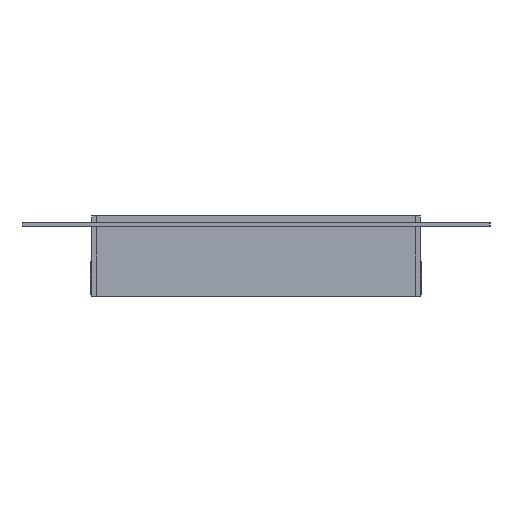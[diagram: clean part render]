
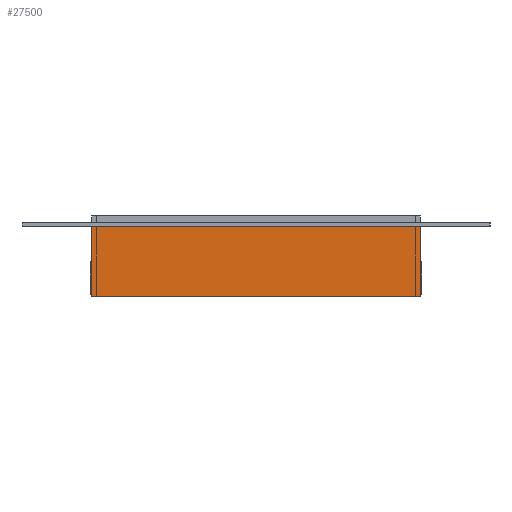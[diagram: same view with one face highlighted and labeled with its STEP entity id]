
A CAD part, left-side view. The second image highlights one B-rep face of the part: STEP entity #27500.
In plain terms, the highlighted planar face has unit normal (-1, 0, 0).
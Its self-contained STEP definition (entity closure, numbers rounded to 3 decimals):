
#5644=FACE_OUTER_BOUND('',#8017,.T.);
#8017=EDGE_LOOP('',(#25912,#25913,#25914,#25915));
#9684=LINE('',#47422,#11448);
#9693=LINE('',#47440,#11457);
#9780=LINE('',#47578,#11544);
#9785=LINE('',#47588,#11549);
#11448=VECTOR('',#39526,304.8);
#11457=VECTOR('',#39539,304.8);
#11544=VECTOR('',#39704,304.8);
#11549=VECTOR('',#39719,304.8);
#14146=VERTEX_POINT('',#47418);
#14148=VERTEX_POINT('',#47421);
#14153=VERTEX_POINT('',#47434);
#14155=VERTEX_POINT('',#47438);
#17988=EDGE_CURVE('',#14148,#14146,#9684,.T.);
#17997=EDGE_CURVE('',#14153,#14155,#9693,.T.);
#18084=EDGE_CURVE('',#14155,#14148,#9780,.T.);
#18089=EDGE_CURVE('',#14153,#14146,#9785,.T.);
#25912=ORIENTED_EDGE('',*,*,#18089,.F.);
#25913=ORIENTED_EDGE('',*,*,#17997,.T.);
#25914=ORIENTED_EDGE('',*,*,#18084,.T.);
#25915=ORIENTED_EDGE('',*,*,#17988,.T.);
#26178=PLANE('',#30991);
#27500=ADVANCED_FACE('',(#5644),#26178,.T.);
#30991=AXIS2_PLACEMENT_3D('',#47587,#39717,#39718);
#39526=DIRECTION('',(0.,0.,-1.));
#39539=DIRECTION('',(0.,0.,1.));
#39704=DIRECTION('',(0.,1.,0.));
#39717=DIRECTION('center_axis',(-1.,0.,0.));
#39718=DIRECTION('ref_axis',(0.,0.,-1.));
#39719=DIRECTION('',(0.,1.,0.));
#47418=CARTESIAN_POINT('',(-137.7,47.,-23.313));
#47421=CARTESIAN_POINT('',(-137.7,47.,-3.312));
#47422=CARTESIAN_POINT('',(-137.7,47.,-3.312));
#47434=CARTESIAN_POINT('',(-137.7,-47.,-23.313));
#47438=CARTESIAN_POINT('',(-137.7,-47.,-3.312));
#47440=CARTESIAN_POINT('',(-137.7,-47.,-23.313));
#47578=CARTESIAN_POINT('',(-137.7,-47.,-3.312));
#47587=CARTESIAN_POINT('Origin',(-137.7,47.,-0.313));
#47588=CARTESIAN_POINT('',(-137.7,-47.,-23.313));
